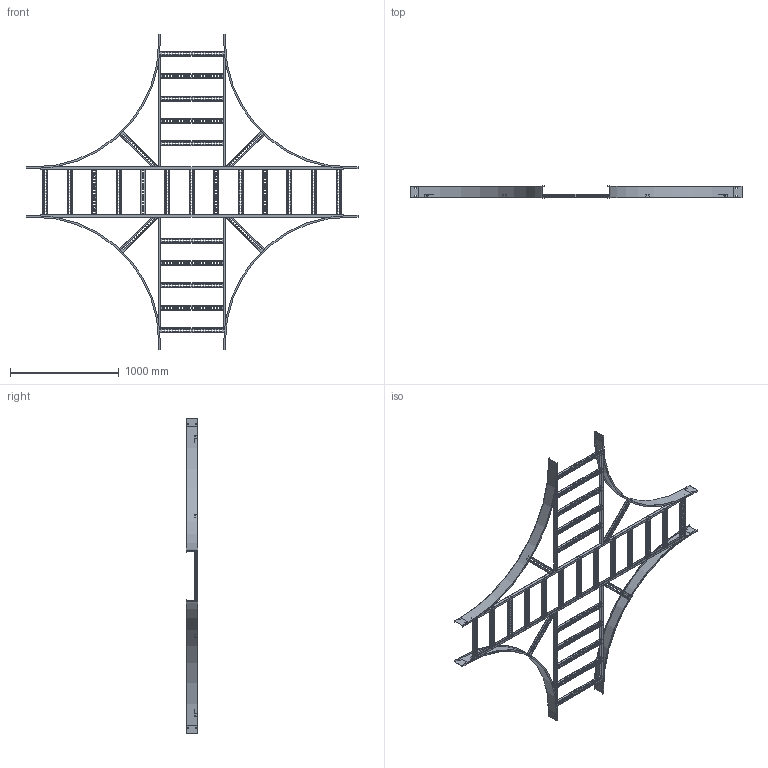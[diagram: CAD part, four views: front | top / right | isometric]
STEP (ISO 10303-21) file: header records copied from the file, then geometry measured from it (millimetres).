
FILE_DESCRIPTION((''),'2;1');
FILE_NAME('AUF41824LEX48_ASM','2010-01-28T',('erouzier'),(''),'PRO/ENGINEER BY PARAMETRIC TECHNOLOGY CORPORATION, 2008510','PRO/ENGINEER BY PARAMETRIC TECHNOLOGY CORPORATION, 2008510','');
FILE_SCHEMA(('CONFIG_CONTROL_DESIGN'));
Length unit declared in the file: inch
Products named in the file (26): CDS001319-4-90-45-I; CDS002159L18-P_AF13; CDS002159L18-P_AF14; CDS002159L18-P_AF15; CDS002159L18-P_AF16; CDS002159L18-P_AF22; CDS002159L18-P_AF24; CDS002159L18-P_AF17; CDS002159L18-P_AF18; CDS002159L18-P_AF19; CDS002159L18-P_AF21; CDS002159L18-P_AF23; CDS002159L18-P_AF25; CDS002159L18-P_AF20; CDS000495_GEN_AF18; CDS000495_GEN_AF19; CDS000495_GEN_AF22; CDS000495_GEN_AF23; CDS000495_GEN_AF20; CDS000495_GEN_AF21; CDS002159L24-P_AF6; CDS002159L24-P_AF7; CDS002159L24-P_AF4; CDS002159L24-P_AF5; CDS002159L24-P; AUF41824LEX48_ASM
Assembly tree (37 placements, depth 2):
  AUF41824LEX48_ASM
    CDS001319-4-90-45-I  x4
    CDS002159L18-P_AF13
    CDS002159L18-P_AF14
    CDS002159L18-P_AF15
    CDS002159L18-P_AF16
    CDS002159L18-P_AF22
    CDS002159L18-P_AF24
    CDS002159L18-P_AF17
    CDS002159L18-P_AF18
    CDS002159L18-P_AF19
    CDS002159L18-P_AF21
    CDS002159L18-P_AF23
    CDS002159L18-P_AF25
    CDS002159L18-P_AF20
    CDS000495_GEN_AF18
    CDS000495_GEN_AF19
    CDS000495_GEN_AF22
    CDS000495_GEN_AF23
    CDS000495_GEN_AF20
    CDS000495_GEN_AF21
    CDS002159L24-P_AF6
    CDS002159L24-P_AF7
    CDS002159L24-P_AF4
    CDS002159L24-P_AF5
    CDS002159L24-P  x10
Bounding box: 3052.57 x 106.05 x 2900.17 mm (x, y, z)
Volume: 5773287.6 mm3; surface area: 6515587.7 mm2
Topology: 37 solids, 37 shells, 4974 faces, 14700 edges, 9800 vertices
Faces by surface type: plane 2681, cylinder 2293
Entity records: 103307 total; most frequent: CARTESIAN_POINT 18233, ORIENTED_EDGE 17808, DIRECTION 17758, EDGE_CURVE 8904, VECTOR 6124, LINE 6124, VERTEX_POINT 5936, AXIS2_PLACEMENT_3D 5817
